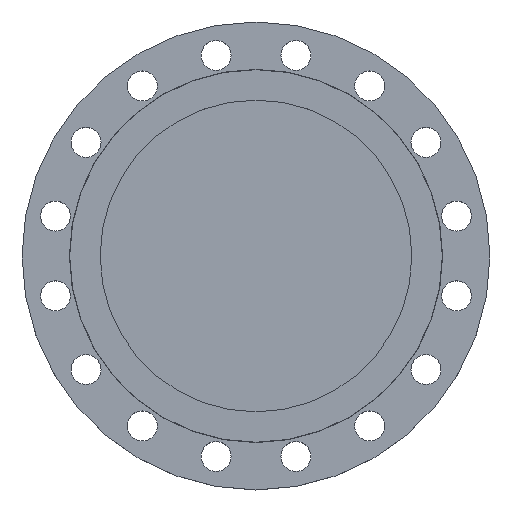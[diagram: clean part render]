
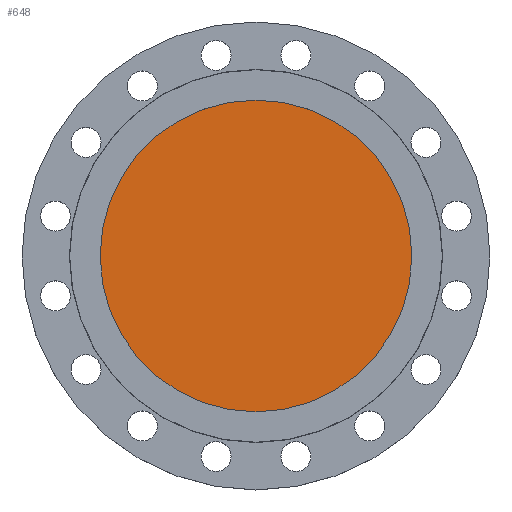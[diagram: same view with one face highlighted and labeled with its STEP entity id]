
A CAD part, top view. The second image highlights one B-rep face of the part: STEP entity #648.
In plain terms, the highlighted planar face has unit normal (0, 0, 1).
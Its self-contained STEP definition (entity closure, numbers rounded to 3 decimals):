
#181 = DIRECTION ( 'NONE',  ( -1., 0., 0. ) ) ;
#182 = DIRECTION ( 'NONE',  ( 0., 0., -1. ) ) ;
#183 = CARTESIAN_POINT ( 'NONE',  ( 0., 0., -5. ) ) ;
#185 = DIRECTION ( 'NONE',  ( 1., 0., 0. ) ) ;
#186 = DIRECTION ( 'NONE',  ( 0., 0., 1. ) ) ;
#188 = CARTESIAN_POINT ( 'NONE',  ( 0., 0., -5. ) ) ;
#189 = PLANE ( 'NONE',  #572 ) ;
#190 = FACE_OUTER_BOUND ( 'NONE', #498, .T. ) ;
#206 = CARTESIAN_POINT ( 'NONE',  ( -171.5, 0., -5. ) ) ;
#366 = DIRECTION ( 'NONE',  ( -1., 0., 0. ) ) ;
#367 = DIRECTION ( 'NONE',  ( 0., 0., -1. ) ) ;
#368 = CARTESIAN_POINT ( 'NONE',  ( 0., 0., -5. ) ) ;
#446 = EDGE_CURVE ( 'NONE', #1197, #626, #742, .T. ) ;
#498 = EDGE_LOOP ( 'NONE', ( #707, #711 ) ) ;
#572 = AXIS2_PLACEMENT_3D ( 'NONE', #188, #186, #185 ) ;
#626 = VERTEX_POINT ( 'NONE', #206 ) ;
#648 = ADVANCED_FACE ( 'NONE', ( #190 ), #189, .T. ) ;
#663 = EDGE_CURVE ( 'NONE', #626, #1197, #1470, .T. ) ;
#707 = ORIENTED_EDGE ( 'NONE', *, *, #663, .F. ) ;
#711 = ORIENTED_EDGE ( 'NONE', *, *, #446, .F. ) ;
#742 = CIRCLE ( 'NONE', #1211, 171.5 ) ;
#1174 = AXIS2_PLACEMENT_3D ( 'NONE', #183, #182, #181 ) ;
#1197 = VERTEX_POINT ( 'NONE', #1202 ) ;
#1202 = CARTESIAN_POINT ( 'NONE',  ( 171.5, 0., -5. ) ) ;
#1211 = AXIS2_PLACEMENT_3D ( 'NONE', #368, #367, #366 ) ;
#1470 = CIRCLE ( 'NONE', #1174, 171.5 ) ;
